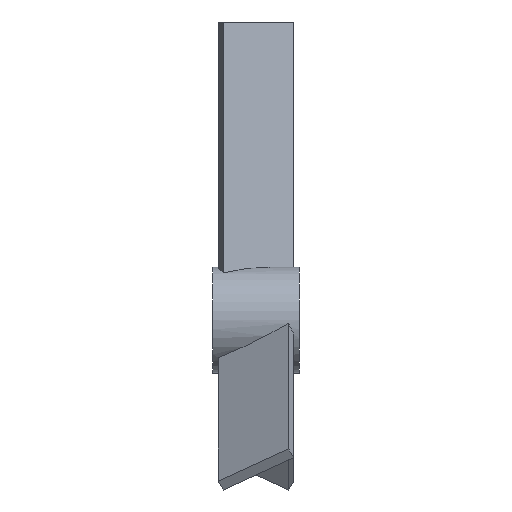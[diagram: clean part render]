
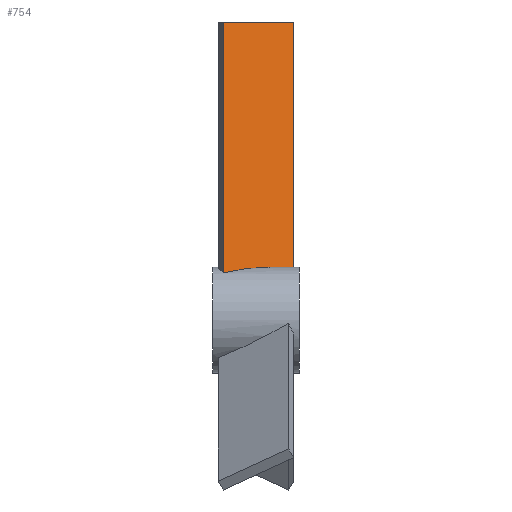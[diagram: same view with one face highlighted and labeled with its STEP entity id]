
A CAD part, front view. The second image highlights one B-rep face of the part: STEP entity #754.
In plain terms, the highlighted planar face has unit normal (0.469, -0.883, 0).
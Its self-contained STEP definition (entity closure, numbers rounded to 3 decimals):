
#31 = CYLINDRICAL_SURFACE('',#32,16.);
#32 = AXIS2_PLACEMENT_3D('',#33,#34,#35);
#33 = CARTESIAN_POINT('',(702.,0.,0.));
#34 = DIRECTION('',(-1.,-0.,-0.));
#35 = DIRECTION('',(0.,1.,0.));
#145 = VERTEX_POINT('',#146);
#146 = CARTESIAN_POINT('',(705.226,-7.179,
    14.299));
#164 = PLANE('',#165);
#165 = AXIS2_PLACEMENT_3D('',#166,#167,#168);
#166 = CARTESIAN_POINT('',(705.226,-7.179,14.));
#167 = DIRECTION('',(0.883,0.469,0.));
#168 = DIRECTION('',(0.,0.,1.));
#176 = EDGE_CURVE('',#145,#177,#179,.T.);
#177 = VERTEX_POINT('',#178);
#178 = CARTESIAN_POINT('',(726.417,4.089,15.469
    ));
#179 = SURFACE_CURVE('',#180,(#185,#197),.PCURVE_S1.);
#180 = ELLIPSE('',#181,34.081,16.);
#181 = AXIS2_PLACEMENT_3D('',#182,#183,#184);
#182 = CARTESIAN_POINT('',(718.728,0.,0.));
#183 = DIRECTION('',(-0.469,0.883,0.));
#184 = DIRECTION('',(-0.883,-0.469,0.));
#185 = PCURVE('',#31,#186);
#186 = DEFINITIONAL_REPRESENTATION('',(#187),#196);
#187 = B_SPLINE_CURVE_WITH_KNOTS('',7,(#188,#189,#190,#191,#192,#193,
    #194,#195),.UNSPECIFIED.,.F.,.F.,(8,8),(1.025,1.884
    ),.PIECEWISE_BEZIER_KNOTS.);
#188 = CARTESIAN_POINT('',(-2.117,-1.107));
#189 = CARTESIAN_POINT('',(-1.994,-4.263));
#190 = CARTESIAN_POINT('',(-1.871,-7.694));
#191 = CARTESIAN_POINT('',(-1.748,-11.322));
#192 = CARTESIAN_POINT('',(-1.626,-15.058));
#193 = CARTESIAN_POINT('',(-1.503,-18.811));
#194 = CARTESIAN_POINT('',(-1.38,-22.487));
#195 = CARTESIAN_POINT('',(-1.258,-26.));
#196 = ( GEOMETRIC_REPRESENTATION_CONTEXT(2) 
PARAMETRIC_REPRESENTATION_CONTEXT() REPRESENTATION_CONTEXT('2D SPACE',''
  ) );
#197 = PCURVE('',#198,#203);
#198 = PLANE('',#199);
#199 = AXIS2_PLACEMENT_3D('',#200,#201,#202);
#200 = CARTESIAN_POINT('',(705.226,-7.179,14.));
#201 = DIRECTION('',(-0.469,0.883,0.));
#202 = DIRECTION('',(0.,0.,1.));
#203 = DEFINITIONAL_REPRESENTATION('',(#204),#208);
#204 = ELLIPSE('',#205,34.081,16.);
#205 = AXIS2_PLACEMENT_2D('',#206,#207);
#206 = CARTESIAN_POINT('',(-14.,15.291));
#207 = DIRECTION('',(0.,-1.));
#208 = ( GEOMETRIC_REPRESENTATION_CONTEXT(2) 
PARAMETRIC_REPRESENTATION_CONTEXT() REPRESENTATION_CONTEXT('2D SPACE',''
  ) );
#228 = PLANE('',#229);
#229 = AXIS2_PLACEMENT_3D('',#230,#231,#232);
#230 = CARTESIAN_POINT('',(726.417,4.089,14.));
#231 = DIRECTION('',(0.883,0.469,0.));
#232 = DIRECTION('',(0.,0.,1.));
#645 = PLANE('',#646);
#646 = AXIS2_PLACEMENT_3D('',#647,#648,#649);
#647 = CARTESIAN_POINT('',(705.226,-7.179,90.));
#648 = DIRECTION('',(0.,0.,1.));
#649 = DIRECTION('',(0.883,0.469,0.));
#660 = EDGE_CURVE('',#145,#661,#663,.T.);
#661 = VERTEX_POINT('',#662);
#662 = CARTESIAN_POINT('',(705.226,-7.179,90.));
#663 = SURFACE_CURVE('',#664,(#668,#675),.PCURVE_S1.);
#664 = LINE('',#665,#666);
#665 = CARTESIAN_POINT('',(705.226,-7.179,14.));
#666 = VECTOR('',#667,1.);
#667 = DIRECTION('',(0.,0.,1.));
#668 = PCURVE('',#164,#669);
#669 = DEFINITIONAL_REPRESENTATION('',(#670),#674);
#670 = LINE('',#671,#672);
#671 = CARTESIAN_POINT('',(0.,0.));
#672 = VECTOR('',#673,1.);
#673 = DIRECTION('',(1.,0.));
#674 = ( GEOMETRIC_REPRESENTATION_CONTEXT(2) 
PARAMETRIC_REPRESENTATION_CONTEXT() REPRESENTATION_CONTEXT('2D SPACE',''
  ) );
#675 = PCURVE('',#198,#676);
#676 = DEFINITIONAL_REPRESENTATION('',(#677),#681);
#677 = LINE('',#678,#679);
#678 = CARTESIAN_POINT('',(0.,0.));
#679 = VECTOR('',#680,1.);
#680 = DIRECTION('',(1.,0.));
#681 = ( GEOMETRIC_REPRESENTATION_CONTEXT(2) 
PARAMETRIC_REPRESENTATION_CONTEXT() REPRESENTATION_CONTEXT('2D SPACE',''
  ) );
#709 = EDGE_CURVE('',#177,#710,#712,.T.);
#710 = VERTEX_POINT('',#711);
#711 = CARTESIAN_POINT('',(726.417,4.089,90.));
#712 = SURFACE_CURVE('',#713,(#717,#724),.PCURVE_S1.);
#713 = LINE('',#714,#715);
#714 = CARTESIAN_POINT('',(726.417,4.089,14.));
#715 = VECTOR('',#716,1.);
#716 = DIRECTION('',(0.,0.,1.));
#717 = PCURVE('',#228,#718);
#718 = DEFINITIONAL_REPRESENTATION('',(#719),#723);
#719 = LINE('',#720,#721);
#720 = CARTESIAN_POINT('',(0.,0.));
#721 = VECTOR('',#722,1.);
#722 = DIRECTION('',(1.,0.));
#723 = ( GEOMETRIC_REPRESENTATION_CONTEXT(2) 
PARAMETRIC_REPRESENTATION_CONTEXT() REPRESENTATION_CONTEXT('2D SPACE',''
  ) );
#724 = PCURVE('',#198,#725);
#725 = DEFINITIONAL_REPRESENTATION('',(#726),#730);
#726 = LINE('',#727,#728);
#727 = CARTESIAN_POINT('',(0.,24.));
#728 = VECTOR('',#729,1.);
#729 = DIRECTION('',(1.,0.));
#730 = ( GEOMETRIC_REPRESENTATION_CONTEXT(2) 
PARAMETRIC_REPRESENTATION_CONTEXT() REPRESENTATION_CONTEXT('2D SPACE',''
  ) );
#754 = ADVANCED_FACE('',(#755),#198,.F.);
#755 = FACE_BOUND('',#756,.F.);
#756 = EDGE_LOOP('',(#757,#758,#759,#760));
#757 = ORIENTED_EDGE('',*,*,#709,.F.);
#758 = ORIENTED_EDGE('',*,*,#176,.F.);
#759 = ORIENTED_EDGE('',*,*,#660,.T.);
#760 = ORIENTED_EDGE('',*,*,#761,.T.);
#761 = EDGE_CURVE('',#661,#710,#762,.T.);
#762 = SURFACE_CURVE('',#763,(#767,#774),.PCURVE_S1.);
#763 = LINE('',#764,#765);
#764 = CARTESIAN_POINT('',(705.226,-7.179,90.));
#765 = VECTOR('',#766,1.);
#766 = DIRECTION('',(0.883,0.469,0.));
#767 = PCURVE('',#198,#768);
#768 = DEFINITIONAL_REPRESENTATION('',(#769),#773);
#769 = LINE('',#770,#771);
#770 = CARTESIAN_POINT('',(76.,0.));
#771 = VECTOR('',#772,1.);
#772 = DIRECTION('',(0.,1.));
#773 = ( GEOMETRIC_REPRESENTATION_CONTEXT(2) 
PARAMETRIC_REPRESENTATION_CONTEXT() REPRESENTATION_CONTEXT('2D SPACE',''
  ) );
#774 = PCURVE('',#645,#775);
#775 = DEFINITIONAL_REPRESENTATION('',(#776),#780);
#776 = LINE('',#777,#778);
#777 = CARTESIAN_POINT('',(0.,0.));
#778 = VECTOR('',#779,1.);
#779 = DIRECTION('',(1.,0.));
#780 = ( GEOMETRIC_REPRESENTATION_CONTEXT(2) 
PARAMETRIC_REPRESENTATION_CONTEXT() REPRESENTATION_CONTEXT('2D SPACE',''
  ) );
